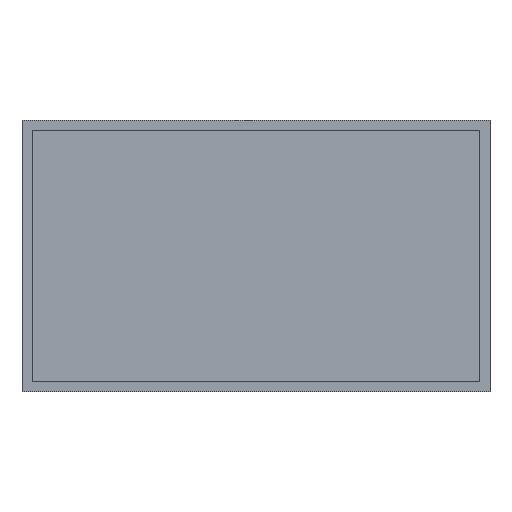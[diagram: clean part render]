
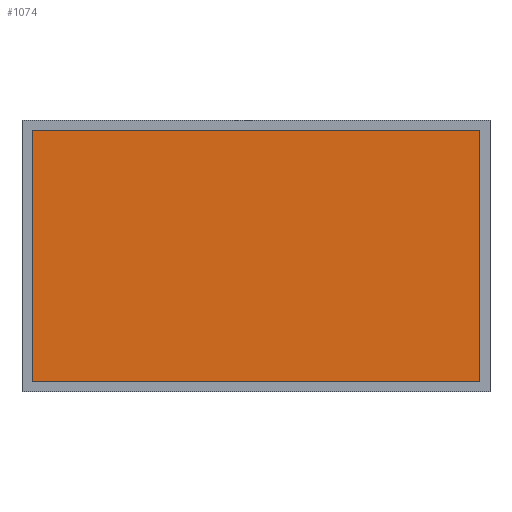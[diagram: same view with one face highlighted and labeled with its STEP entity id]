
A CAD part, top view. The second image highlights one B-rep face of the part: STEP entity #1074.
In plain terms, the highlighted planar face has unit normal (0, 0, 1).
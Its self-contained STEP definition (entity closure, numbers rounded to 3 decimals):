
#282 = PLANE('',#283);
#283 = AXIS2_PLACEMENT_3D('',#284,#285,#286);
#284 = CARTESIAN_POINT('',(-66.,-37.,3.));
#285 = DIRECTION('',(0.,1.,0.));
#286 = DIRECTION('',(0.,0.,1.));
#308 = PLANE('',#309);
#309 = AXIS2_PLACEMENT_3D('',#310,#311,#312);
#310 = CARTESIAN_POINT('',(-66.,-37.,3.));
#311 = DIRECTION('',(1.,0.,0.));
#312 = DIRECTION('',(0.,0.,1.));
#334 = PLANE('',#335);
#335 = AXIS2_PLACEMENT_3D('',#336,#337,#338);
#336 = CARTESIAN_POINT('',(-66.,37.,3.));
#337 = DIRECTION('',(0.,1.,0.));
#338 = DIRECTION('',(0.,0.,1.));
#358 = PLANE('',#359);
#359 = AXIS2_PLACEMENT_3D('',#360,#361,#362);
#360 = CARTESIAN_POINT('',(66.,-37.,3.));
#361 = DIRECTION('',(1.,0.,0.));
#362 = DIRECTION('',(0.,0.,1.));
#570 = VERTEX_POINT('',#571);
#571 = CARTESIAN_POINT('',(66.,-37.,3.));
#592 = EDGE_CURVE('',#593,#570,#595,.T.);
#593 = VERTEX_POINT('',#594);
#594 = CARTESIAN_POINT('',(-66.,-37.,3.));
#595 = SURFACE_CURVE('',#596,(#600,#607),.PCURVE_S1.);
#596 = LINE('',#597,#598);
#597 = CARTESIAN_POINT('',(-66.,-37.,3.));
#598 = VECTOR('',#599,1.);
#599 = DIRECTION('',(1.,0.,0.));
#600 = PCURVE('',#282,#601);
#601 = DEFINITIONAL_REPRESENTATION('',(#602),#606);
#602 = LINE('',#603,#604);
#603 = CARTESIAN_POINT('',(0.,0.));
#604 = VECTOR('',#605,1.);
#605 = DIRECTION('',(0.,1.));
#606 = ( GEOMETRIC_REPRESENTATION_CONTEXT(2) 
PARAMETRIC_REPRESENTATION_CONTEXT() REPRESENTATION_CONTEXT('2D SPACE',''
  ) );
#607 = PCURVE('',#608,#613);
#608 = PLANE('',#609);
#609 = AXIS2_PLACEMENT_3D('',#610,#611,#612);
#610 = CARTESIAN_POINT('',(-66.,-37.,3.));
#611 = DIRECTION('',(0.,0.,1.));
#612 = DIRECTION('',(1.,0.,0.));
#613 = DEFINITIONAL_REPRESENTATION('',(#614),#618);
#614 = LINE('',#615,#616);
#615 = CARTESIAN_POINT('',(0.,0.));
#616 = VECTOR('',#617,1.);
#617 = DIRECTION('',(1.,0.));
#618 = ( GEOMETRIC_REPRESENTATION_CONTEXT(2) 
PARAMETRIC_REPRESENTATION_CONTEXT() REPRESENTATION_CONTEXT('2D SPACE',''
  ) );
#646 = EDGE_CURVE('',#570,#647,#649,.T.);
#647 = VERTEX_POINT('',#648);
#648 = CARTESIAN_POINT('',(66.,37.,3.));
#649 = SURFACE_CURVE('',#650,(#654,#661),.PCURVE_S1.);
#650 = LINE('',#651,#652);
#651 = CARTESIAN_POINT('',(66.,-37.,3.));
#652 = VECTOR('',#653,1.);
#653 = DIRECTION('',(0.,1.,0.));
#654 = PCURVE('',#358,#655);
#655 = DEFINITIONAL_REPRESENTATION('',(#656),#660);
#656 = LINE('',#657,#658);
#657 = CARTESIAN_POINT('',(0.,0.));
#658 = VECTOR('',#659,1.);
#659 = DIRECTION('',(0.,-1.));
#660 = ( GEOMETRIC_REPRESENTATION_CONTEXT(2) 
PARAMETRIC_REPRESENTATION_CONTEXT() REPRESENTATION_CONTEXT('2D SPACE',''
  ) );
#661 = PCURVE('',#608,#662);
#662 = DEFINITIONAL_REPRESENTATION('',(#663),#667);
#663 = LINE('',#664,#665);
#664 = CARTESIAN_POINT('',(132.,0.));
#665 = VECTOR('',#666,1.);
#666 = DIRECTION('',(0.,1.));
#667 = ( GEOMETRIC_REPRESENTATION_CONTEXT(2) 
PARAMETRIC_REPRESENTATION_CONTEXT() REPRESENTATION_CONTEXT('2D SPACE',''
  ) );
#695 = EDGE_CURVE('',#696,#647,#698,.T.);
#696 = VERTEX_POINT('',#697);
#697 = CARTESIAN_POINT('',(-66.,37.,3.));
#698 = SURFACE_CURVE('',#699,(#703,#710),.PCURVE_S1.);
#699 = LINE('',#700,#701);
#700 = CARTESIAN_POINT('',(-66.,37.,3.));
#701 = VECTOR('',#702,1.);
#702 = DIRECTION('',(1.,0.,0.));
#703 = PCURVE('',#334,#704);
#704 = DEFINITIONAL_REPRESENTATION('',(#705),#709);
#705 = LINE('',#706,#707);
#706 = CARTESIAN_POINT('',(0.,0.));
#707 = VECTOR('',#708,1.);
#708 = DIRECTION('',(0.,1.));
#709 = ( GEOMETRIC_REPRESENTATION_CONTEXT(2) 
PARAMETRIC_REPRESENTATION_CONTEXT() REPRESENTATION_CONTEXT('2D SPACE',''
  ) );
#710 = PCURVE('',#608,#711);
#711 = DEFINITIONAL_REPRESENTATION('',(#712),#716);
#712 = LINE('',#713,#714);
#713 = CARTESIAN_POINT('',(0.,74.));
#714 = VECTOR('',#715,1.);
#715 = DIRECTION('',(1.,0.));
#716 = ( GEOMETRIC_REPRESENTATION_CONTEXT(2) 
PARAMETRIC_REPRESENTATION_CONTEXT() REPRESENTATION_CONTEXT('2D SPACE',''
  ) );
#744 = EDGE_CURVE('',#593,#696,#745,.T.);
#745 = SURFACE_CURVE('',#746,(#750,#757),.PCURVE_S1.);
#746 = LINE('',#747,#748);
#747 = CARTESIAN_POINT('',(-66.,-37.,3.));
#748 = VECTOR('',#749,1.);
#749 = DIRECTION('',(0.,1.,0.));
#750 = PCURVE('',#308,#751);
#751 = DEFINITIONAL_REPRESENTATION('',(#752),#756);
#752 = LINE('',#753,#754);
#753 = CARTESIAN_POINT('',(0.,0.));
#754 = VECTOR('',#755,1.);
#755 = DIRECTION('',(0.,-1.));
#756 = ( GEOMETRIC_REPRESENTATION_CONTEXT(2) 
PARAMETRIC_REPRESENTATION_CONTEXT() REPRESENTATION_CONTEXT('2D SPACE',''
  ) );
#757 = PCURVE('',#608,#758);
#758 = DEFINITIONAL_REPRESENTATION('',(#759),#763);
#759 = LINE('',#760,#761);
#760 = CARTESIAN_POINT('',(0.,0.));
#761 = VECTOR('',#762,1.);
#762 = DIRECTION('',(0.,1.));
#763 = ( GEOMETRIC_REPRESENTATION_CONTEXT(2) 
PARAMETRIC_REPRESENTATION_CONTEXT() REPRESENTATION_CONTEXT('2D SPACE',''
  ) );
#1074 = ADVANCED_FACE('',(#1075),#608,.T.);
#1075 = FACE_BOUND('',#1076,.T.);
#1076 = EDGE_LOOP('',(#1077,#1078,#1079,#1080));
#1077 = ORIENTED_EDGE('',*,*,#744,.F.);
#1078 = ORIENTED_EDGE('',*,*,#592,.T.);
#1079 = ORIENTED_EDGE('',*,*,#646,.T.);
#1080 = ORIENTED_EDGE('',*,*,#695,.F.);
